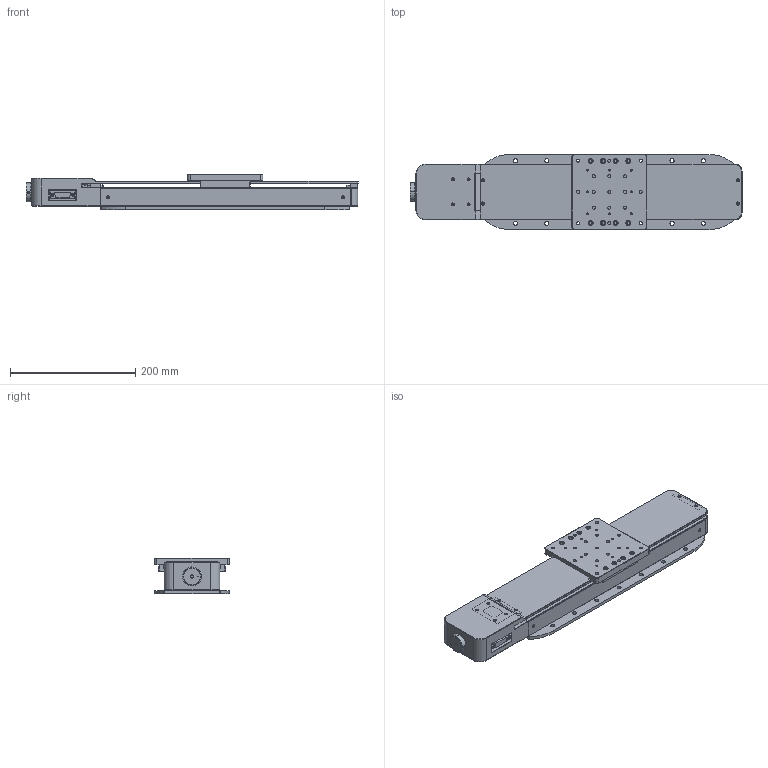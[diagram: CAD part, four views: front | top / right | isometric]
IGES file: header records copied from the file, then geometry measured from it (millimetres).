
Global section: file name: No Iges File Name specified; native system: AutoDesk Inventor R12.0; preprocessor: AutoDesk Inventor Iges Exporter R12.0; date: 20140324.112952; units: millimetre
Bounding box: 530.3 x 120 x 57.2 mm (x, y, z)
Volume: 1158866.6 mm3; surface area: 539217.6 mm2
Topology: 2 solids, 99 shells, 2912 faces, 7156 edges, 4496 vertices
Faces by surface type: plane 1489, bspline 592, cylinder 415, cone 238, revolution 150, torus 24, sphere 4
